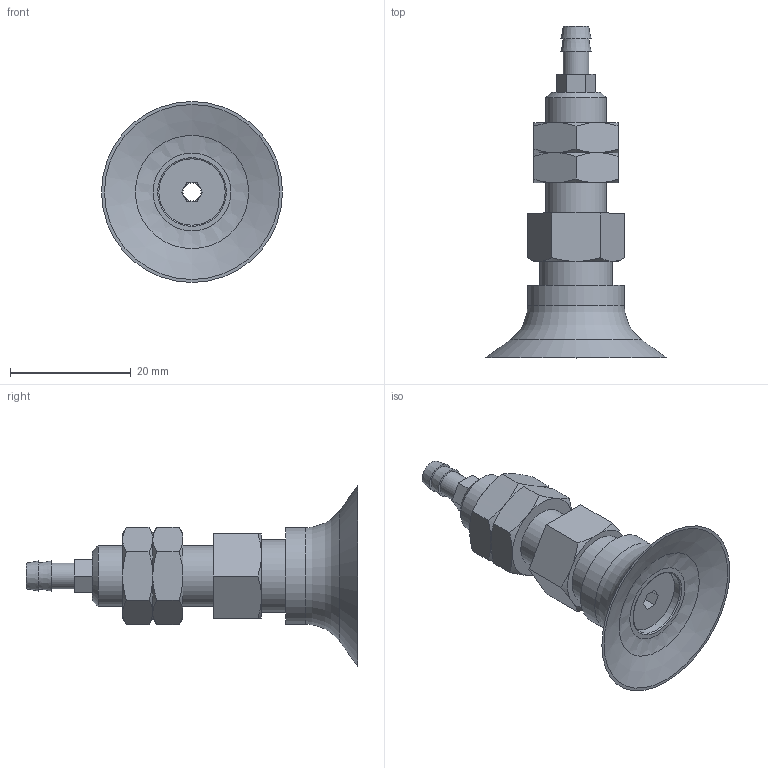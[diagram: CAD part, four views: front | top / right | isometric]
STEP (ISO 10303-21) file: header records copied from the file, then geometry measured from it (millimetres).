
FILE_DESCRIPTION(('STEP AP203'),'1');
FILE_NAME('.stp','2025-04-07T01:58:02',(' '),(' '),'Spatial InterOp 3D',' ',' ');
FILE_SCHEMA(('CONFIG_CONTROL_DESIGN'));
Length unit declared in the file: millimetre
Products named in the file (5): BBPFTK-30-※; NUT-30; TN-PF-30-M6-1; PFTK-25; BPFG-30-※
Assembly tree (5 placements, depth 2):
  BBPFTK-30-※
    NUT-30  x2
    TN-PF-30-M6-1
    PFTK-25
    BPFG-30-※
Bounding box: 30 x 55 x 30 mm (x, y, z)
Volume: 6920.9 mm3; surface area: 6027.7 mm2
Topology: 5 solids, 5 shells, 119 faces, 252 edges, 153 vertices
Faces by surface type: plane 56, cone 43, cylinder 14, torus 5, bspline 1
Full cylindrical faces by diameter (mm): 3 x2, 4.134 x1, 4.26 x1, 4.917 x1, 6 x2, 8.376 x2, 10 x1, 11 x2, 12 x1, 16 x1
Entity records: 2955 total; most frequent: CARTESIAN_POINT 781, DIRECTION 404, ORIENTED_EDGE 340, EDGE_CURVE 170, AXIS2_PLACEMENT_3D 169, EDGE_LOOP 144, VERTEX_POINT 122, FACE_OUTER_BOUND 115
